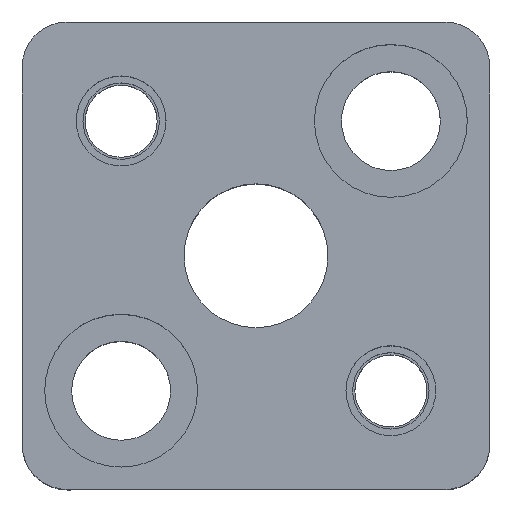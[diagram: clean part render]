
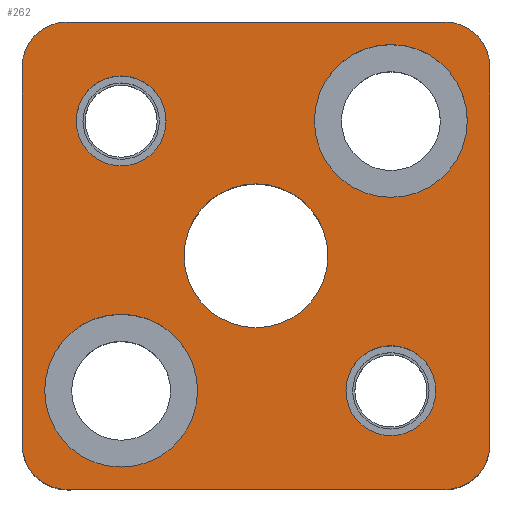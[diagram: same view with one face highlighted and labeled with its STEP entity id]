
A CAD part, top view. The second image highlights one B-rep face of the part: STEP entity #262.
In plain terms, the highlighted planar face has unit normal (0, 0, 1).
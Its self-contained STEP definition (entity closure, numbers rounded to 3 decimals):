
#111=FACE_BOUND('',#381,.T.);
#112=FACE_BOUND('',#382,.T.);
#113=FACE_BOUND('',#383,.T.);
#114=FACE_BOUND('',#384,.T.);
#115=FACE_BOUND('',#385,.T.);
#116=FACE_BOUND('',#386,.T.);
#162=CIRCLE('',#926,5.);
#164=CIRCLE('',#930,5.);
#166=CIRCLE('',#934,5.);
#168=CIRCLE('',#938,5.);
#181=CIRCLE('',#964,8.5);
#183=CIRCLE('',#967,8.5);
#185=CIRCLE('',#971,8.5);
#187=CIRCLE('',#974,8.5);
#209=CIRCLE('',#1011,5.);
#210=CIRCLE('',#1012,5.);
#211=CIRCLE('',#1013,5.);
#212=CIRCLE('',#1014,5.);
#213=CIRCLE('',#1015,8.);
#214=CIRCLE('',#1016,8.);
#262=ADVANCED_FACE('',(#111,#112,#113,#114,#115,#116),#287,.T.);
#287=PLANE('',#1017);
#381=EDGE_LOOP('',(#571,#572,#573,#574,#575,#576,#577,#578));
#382=EDGE_LOOP('',(#579,#580));
#383=EDGE_LOOP('',(#581,#582));
#384=EDGE_LOOP('',(#583,#584));
#385=EDGE_LOOP('',(#585,#586));
#386=EDGE_LOOP('',(#587,#588));
#571=ORIENTED_EDGE('',*,*,#724,.T.);
#572=ORIENTED_EDGE('',*,*,#721,.T.);
#573=ORIENTED_EDGE('',*,*,#718,.T.);
#574=ORIENTED_EDGE('',*,*,#715,.T.);
#575=ORIENTED_EDGE('',*,*,#712,.T.);
#576=ORIENTED_EDGE('',*,*,#709,.T.);
#577=ORIENTED_EDGE('',*,*,#730,.T.);
#578=ORIENTED_EDGE('',*,*,#727,.T.);
#579=ORIENTED_EDGE('',*,*,#801,.F.);
#580=ORIENTED_EDGE('',*,*,#802,.F.);
#581=ORIENTED_EDGE('',*,*,#803,.F.);
#582=ORIENTED_EDGE('',*,*,#804,.F.);
#583=ORIENTED_EDGE('',*,*,#769,.F.);
#584=ORIENTED_EDGE('',*,*,#765,.F.);
#585=ORIENTED_EDGE('',*,*,#763,.F.);
#586=ORIENTED_EDGE('',*,*,#759,.F.);
#587=ORIENTED_EDGE('',*,*,#805,.T.);
#588=ORIENTED_EDGE('',*,*,#806,.T.);
#635=VERTEX_POINT('',#1320);
#636=VERTEX_POINT('',#1322);
#638=VERTEX_POINT('',#1328);
#640=VERTEX_POINT('',#1334);
#642=VERTEX_POINT('',#1340);
#644=VERTEX_POINT('',#1346);
#646=VERTEX_POINT('',#1352);
#648=VERTEX_POINT('',#1358);
#665=VERTEX_POINT('',#1433);
#666=VERTEX_POINT('',#1434);
#669=VERTEX_POINT('',#1446);
#670=VERTEX_POINT('',#1447);
#693=VERTEX_POINT('',#1522);
#694=VERTEX_POINT('',#1523);
#695=VERTEX_POINT('',#1526);
#696=VERTEX_POINT('',#1527);
#697=VERTEX_POINT('',#1530);
#698=VERTEX_POINT('',#1531);
#709=EDGE_CURVE('',#636,#635,#825,.T.);
#712=EDGE_CURVE('',#638,#636,#162,.T.);
#715=EDGE_CURVE('',#640,#638,#829,.T.);
#718=EDGE_CURVE('',#642,#640,#164,.T.);
#721=EDGE_CURVE('',#644,#642,#833,.T.);
#724=EDGE_CURVE('',#646,#644,#166,.T.);
#727=EDGE_CURVE('',#648,#646,#837,.T.);
#730=EDGE_CURVE('',#635,#648,#168,.T.);
#759=EDGE_CURVE('',#665,#666,#181,.T.);
#763=EDGE_CURVE('',#666,#665,#183,.T.);
#765=EDGE_CURVE('',#669,#670,#185,.T.);
#769=EDGE_CURVE('',#670,#669,#187,.T.);
#801=EDGE_CURVE('',#693,#694,#209,.T.);
#802=EDGE_CURVE('',#694,#693,#210,.T.);
#803=EDGE_CURVE('',#695,#696,#211,.T.);
#804=EDGE_CURVE('',#696,#695,#212,.T.);
#805=EDGE_CURVE('',#697,#698,#213,.T.);
#806=EDGE_CURVE('',#698,#697,#214,.T.);
#825=LINE('',#1321,#875);
#829=LINE('',#1333,#879);
#833=LINE('',#1345,#883);
#837=LINE('',#1357,#887);
#875=VECTOR('',#1041,1.);
#879=VECTOR('',#1053,1.);
#883=VECTOR('',#1065,1.);
#887=VECTOR('',#1077,1.);
#926=AXIS2_PLACEMENT_3D('',#1327,#1047,#1048);
#930=AXIS2_PLACEMENT_3D('',#1339,#1059,#1060);
#934=AXIS2_PLACEMENT_3D('',#1351,#1071,#1072);
#938=AXIS2_PLACEMENT_3D('',#1362,#1083,#1084);
#964=AXIS2_PLACEMENT_3D('',#1432,#1147,#1148);
#967=AXIS2_PLACEMENT_3D('',#1441,#1155,#1156);
#971=AXIS2_PLACEMENT_3D('',#1445,#1163,#1164);
#974=AXIS2_PLACEMENT_3D('',#1454,#1171,#1172);
#1011=AXIS2_PLACEMENT_3D('',#1521,#1255,#1256);
#1012=AXIS2_PLACEMENT_3D('',#1524,#1257,#1258);
#1013=AXIS2_PLACEMENT_3D('',#1525,#1259,#1260);
#1014=AXIS2_PLACEMENT_3D('',#1528,#1261,#1262);
#1015=AXIS2_PLACEMENT_3D('',#1529,#1263,#1264);
#1016=AXIS2_PLACEMENT_3D('',#1532,#1265,#1266);
#1017=AXIS2_PLACEMENT_3D('',#1533,#1267,#1268);
#1041=DIRECTION('',(0.,-1.,0.));
#1047=DIRECTION('',(0.,0.,1.));
#1048=DIRECTION('',(0.707,-0.707,0.));
#1053=DIRECTION('',(-1.,0.,0.));
#1059=DIRECTION('',(0.,0.,1.));
#1060=DIRECTION('',(-0.707,-0.707,0.));
#1065=DIRECTION('',(0.,1.,0.));
#1071=DIRECTION('',(0.,0.,1.));
#1072=DIRECTION('',(-0.707,0.707,0.));
#1077=DIRECTION('',(1.,0.,0.));
#1083=DIRECTION('',(0.,0.,1.));
#1084=DIRECTION('',(0.707,0.707,0.));
#1147=DIRECTION('',(0.,0.,1.));
#1148=DIRECTION('',(-1.,0.,0.));
#1155=DIRECTION('',(0.,0.,1.));
#1156=DIRECTION('',(1.,0.,0.));
#1163=DIRECTION('',(0.,0.,1.));
#1164=DIRECTION('',(-1.,0.,0.));
#1171=DIRECTION('',(0.,0.,1.));
#1172=DIRECTION('',(1.,0.,0.));
#1255=DIRECTION('',(0.,0.,1.));
#1256=DIRECTION('',(1.,0.,0.));
#1257=DIRECTION('',(0.,0.,1.));
#1258=DIRECTION('',(-1.,0.,0.));
#1259=DIRECTION('',(0.,0.,1.));
#1260=DIRECTION('',(1.,0.,0.));
#1261=DIRECTION('',(0.,0.,1.));
#1262=DIRECTION('',(-1.,0.,0.));
#1263=DIRECTION('',(0.,0.,-1.));
#1264=DIRECTION('',(-1.,0.,0.));
#1265=DIRECTION('',(0.,0.,-1.));
#1266=DIRECTION('',(1.,0.,0.));
#1267=DIRECTION('',(0.,0.,1.));
#1268=DIRECTION('',(-1.,0.,0.));
#1320=CARTESIAN_POINT('',(-26.,-21.,30.));
#1321=CARTESIAN_POINT('',(-26.,21.,30.));
#1322=CARTESIAN_POINT('',(-26.,21.,30.));
#1327=CARTESIAN_POINT('',(-21.,21.,30.));
#1328=CARTESIAN_POINT('',(-21.,26.,30.));
#1333=CARTESIAN_POINT('',(-21.,26.,30.));
#1334=CARTESIAN_POINT('',(21.,26.,30.));
#1339=CARTESIAN_POINT('',(21.,21.,30.));
#1340=CARTESIAN_POINT('',(26.,21.,30.));
#1345=CARTESIAN_POINT('',(26.,21.,30.));
#1346=CARTESIAN_POINT('',(26.,-21.,30.));
#1351=CARTESIAN_POINT('',(21.,-21.,30.));
#1352=CARTESIAN_POINT('',(21.,-26.,30.));
#1357=CARTESIAN_POINT('',(-21.,-26.,30.));
#1358=CARTESIAN_POINT('',(-21.,-26.,30.));
#1362=CARTESIAN_POINT('',(-21.,-21.,30.));
#1432=CARTESIAN_POINT('',(-15.,-15.,30.));
#1433=CARTESIAN_POINT('',(-15.,-23.5,30.));
#1434=CARTESIAN_POINT('',(-15.,-6.5,30.));
#1441=CARTESIAN_POINT('',(-15.,-15.,30.));
#1445=CARTESIAN_POINT('',(15.,15.,30.));
#1446=CARTESIAN_POINT('',(15.,6.5,30.));
#1447=CARTESIAN_POINT('',(15.,23.5,30.));
#1454=CARTESIAN_POINT('',(15.,15.,30.));
#1521=CARTESIAN_POINT('',(-15.,15.,30.));
#1522=CARTESIAN_POINT('',(-15.,20.,30.));
#1523=CARTESIAN_POINT('',(-15.,10.,30.));
#1524=CARTESIAN_POINT('',(-15.,15.,30.));
#1525=CARTESIAN_POINT('',(15.,-15.,30.));
#1526=CARTESIAN_POINT('',(15.,-10.,30.));
#1527=CARTESIAN_POINT('',(15.,-20.,30.));
#1528=CARTESIAN_POINT('',(15.,-15.,30.));
#1529=CARTESIAN_POINT('',(0.,0.,30.));
#1530=CARTESIAN_POINT('',(0.,8.,30.));
#1531=CARTESIAN_POINT('',(0.,-8.,30.));
#1532=CARTESIAN_POINT('',(0.,0.,30.));
#1533=CARTESIAN_POINT('',(21.,-26.,30.));
